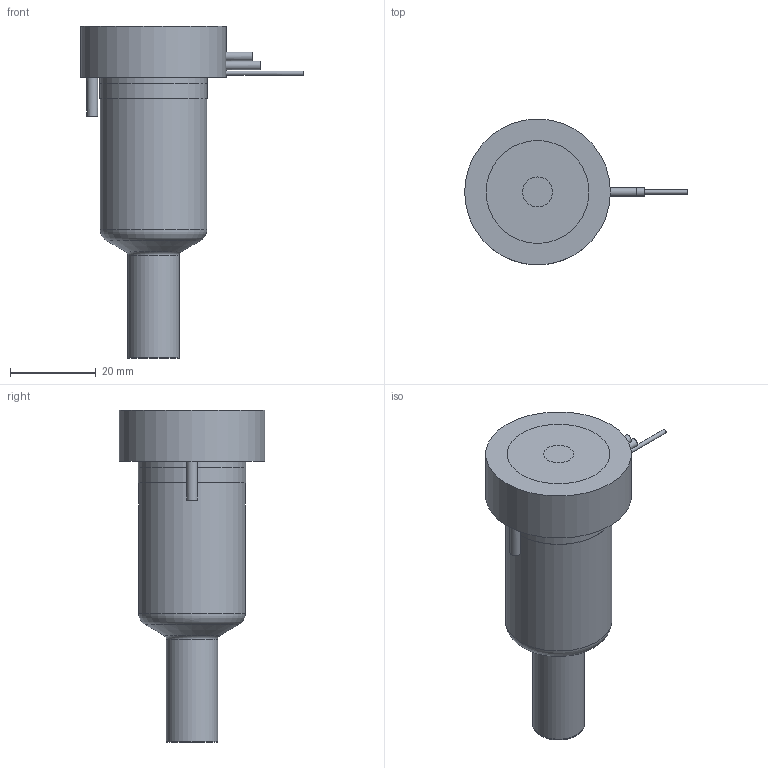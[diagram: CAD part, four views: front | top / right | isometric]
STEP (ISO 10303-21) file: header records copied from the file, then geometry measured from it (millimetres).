
FILE_DESCRIPTION(/* description */ (''),/* implementation_level */ '2;1');
FILE_NAME(/* name */ 'MXYCN16045P7F_250C_a',/* time_stamp */ '2016-02-26T15:06:03+13:00',/* author */ (''),/* organization */ (''),/* preprocessor_version */ 'ST-DEVELOPER v9',/* originating_system */ 'UGS - NX 4.0',/* authorisation */ '');
FILE_SCHEMA (('CONFIG_CONTROL_DESIGN'));
Length unit declared in the file: millimetre
Products named in the file (1): matt70754gpz
Bounding box: 51.95 x 34 x 77.44 mm (x, y, z)
Volume: 55061.5 mm3; surface area: 13812.5 mm2
Topology: 2 solids, 2 shells, 71 faces, 156 edges, 102 vertices
Faces by surface type: plane 31, cylinder 26, torus 7, cone 5, bspline 1, sphere 1
Full cylindrical faces by diameter (mm): 1 x2, 1.8 x1, 2 x2, 2.5 x1, 5 x1, 7 x1, 11.61 x1, 11.995 x2, 14.8 x1, 20.8 x1, 24.9 x1, 25 x2, 34 x1
Entity records: 2121 total; most frequent: CARTESIAN_POINT 614, DIRECTION 314, ORIENTED_EDGE 234, AXIS2_PLACEMENT_3D 141, EDGE_CURVE 117, EDGE_LOOP 114, VERTEX_POINT 91, ADVANCED_FACE 71
